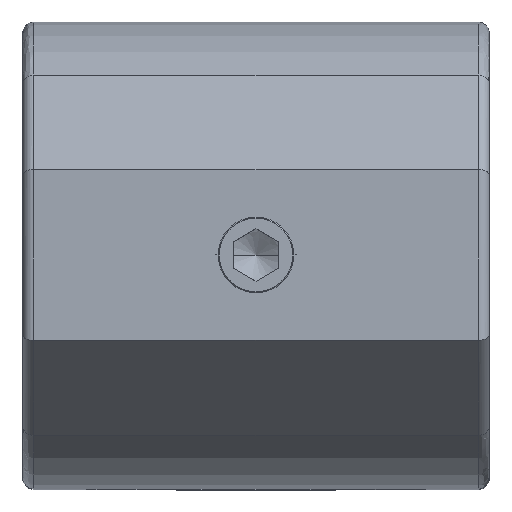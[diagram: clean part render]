
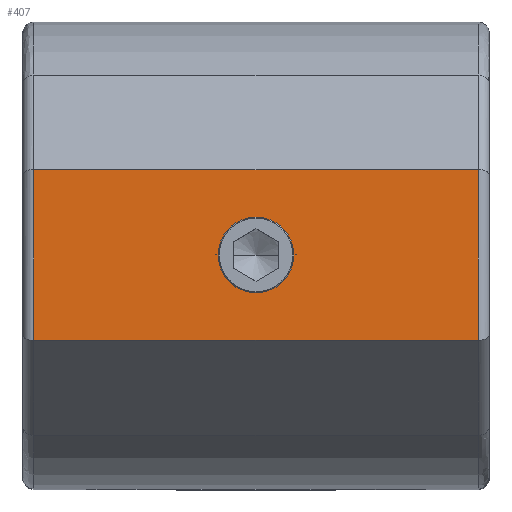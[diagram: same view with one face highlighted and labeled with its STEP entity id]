
A CAD part, top view. The second image highlights one B-rep face of the part: STEP entity #407.
In plain terms, the highlighted planar face has unit normal (0, 0, 1).
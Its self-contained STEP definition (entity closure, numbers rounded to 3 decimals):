
#34 = EDGE_CURVE ( 'NONE', #1732, #1984, #1463, .T. ) ;
#40 = DIRECTION ( 'NONE',  ( 0., 0., -1. ) ) ;
#45 = CARTESIAN_POINT ( 'NONE',  ( 0., 0., 80. ) ) ;
#81 = CARTESIAN_POINT ( 'NONE',  ( -19.5, 0., 80. ) ) ;
#138 = DIRECTION ( 'NONE',  ( 0., 0., 1. ) ) ;
#166 = VECTOR ( 'NONE', #1527, 1000. ) ;
#182 = VERTEX_POINT ( 'NONE', #193 ) ;
#193 = CARTESIAN_POINT ( 'NONE',  ( -19.5, -7.5, 80. ) ) ;
#230 = ORIENTED_EDGE ( 'NONE', *, *, #1333, .T. ) ;
#294 = CARTESIAN_POINT ( 'NONE',  ( 20.5, 7.5, 80. ) ) ;
#353 = ORIENTED_EDGE ( 'NONE', *, *, #2635, .T. ) ;
#407 = ADVANCED_FACE ( 'NONE', ( #1949, #1338 ), #2828, .T. ) ;
#524 = DIRECTION ( 'NONE',  ( 0., 1., 0. ) ) ;
#697 = VECTOR ( 'NONE', #2311, 1000. ) ;
#709 = ORIENTED_EDGE ( 'NONE', *, *, #2615, .T. ) ;
#734 = ORIENTED_EDGE ( 'NONE', *, *, #2896, .T. ) ;
#817 = CARTESIAN_POINT ( 'NONE',  ( 19.5, 0., 80. ) ) ;
#831 = DIRECTION ( 'NONE',  ( 0., -1., 0. ) ) ;
#1098 = CIRCLE ( 'NONE', #1646, 3.324 ) ;
#1118 = EDGE_LOOP ( 'NONE', ( #2294, #353 ) ) ;
#1200 = CIRCLE ( 'NONE', #2508, 3.324 ) ;
#1270 = VERTEX_POINT ( 'NONE', #3086 ) ;
#1300 = AXIS2_PLACEMENT_3D ( 'NONE', #1608, #138, #2128 ) ;
#1333 = EDGE_CURVE ( 'NONE', #1882, #182, #2222, .T. ) ;
#1338 = FACE_OUTER_BOUND ( 'NONE', #2713, .T. ) ;
#1368 = CARTESIAN_POINT ( 'NONE',  ( 19.5, -7.5, 80. ) ) ;
#1463 = LINE ( 'NONE', #817, #2296 ) ;
#1488 = CARTESIAN_POINT ( 'NONE',  ( 20.5, -7.5, 80. ) ) ;
#1495 = ORIENTED_EDGE ( 'NONE', *, *, #34, .T. ) ;
#1527 = DIRECTION ( 'NONE',  ( 1., 0., 0. ) ) ;
#1608 = CARTESIAN_POINT ( 'NONE',  ( 0., 0., 80. ) ) ;
#1646 = AXIS2_PLACEMENT_3D ( 'NONE', #45, #2516, #524 ) ;
#1655 = VERTEX_POINT ( 'NONE', #2111 ) ;
#1732 = VERTEX_POINT ( 'NONE', #1368 ) ;
#1836 = CARTESIAN_POINT ( 'NONE',  ( 0., 0., 80. ) ) ;
#1882 = VERTEX_POINT ( 'NONE', #1883 ) ;
#1883 = CARTESIAN_POINT ( 'NONE',  ( -19.5, 7.5, 80. ) ) ;
#1949 = FACE_BOUND ( 'NONE', #1118, .T. ) ;
#1984 = VERTEX_POINT ( 'NONE', #2956 ) ;
#2111 = CARTESIAN_POINT ( 'NONE',  ( 0., -3.324, 80. ) ) ;
#2128 = DIRECTION ( 'NONE',  ( 1., 0., 0. ) ) ;
#2222 = LINE ( 'NONE', #81, #2991 ) ;
#2294 = ORIENTED_EDGE ( 'NONE', *, *, #2807, .T. ) ;
#2296 = VECTOR ( 'NONE', #2781, 1000. ) ;
#2311 = DIRECTION ( 'NONE',  ( -1., 0., 0. ) ) ;
#2508 = AXIS2_PLACEMENT_3D ( 'NONE', #1836, #40, #2566 ) ;
#2516 = DIRECTION ( 'NONE',  ( 0., 0., -1. ) ) ;
#2566 = DIRECTION ( 'NONE',  ( 0., 1., 0. ) ) ;
#2615 = EDGE_CURVE ( 'NONE', #1984, #1882, #2765, .T. ) ;
#2635 = EDGE_CURVE ( 'NONE', #1655, #1270, #1200, .T. ) ;
#2713 = EDGE_LOOP ( 'NONE', ( #230, #734, #1495, #709 ) ) ;
#2765 = LINE ( 'NONE', #294, #697 ) ;
#2781 = DIRECTION ( 'NONE',  ( 0., 1., 0. ) ) ;
#2807 = EDGE_CURVE ( 'NONE', #1270, #1655, #1098, .T. ) ;
#2828 = PLANE ( 'NONE',  #1300 ) ;
#2857 = LINE ( 'NONE', #1488, #166 ) ;
#2896 = EDGE_CURVE ( 'NONE', #182, #1732, #2857, .T. ) ;
#2956 = CARTESIAN_POINT ( 'NONE',  ( 19.5, 7.5, 80. ) ) ;
#2991 = VECTOR ( 'NONE', #831, 1000. ) ;
#3086 = CARTESIAN_POINT ( 'NONE',  ( 0., 3.324, 80. ) ) ;
